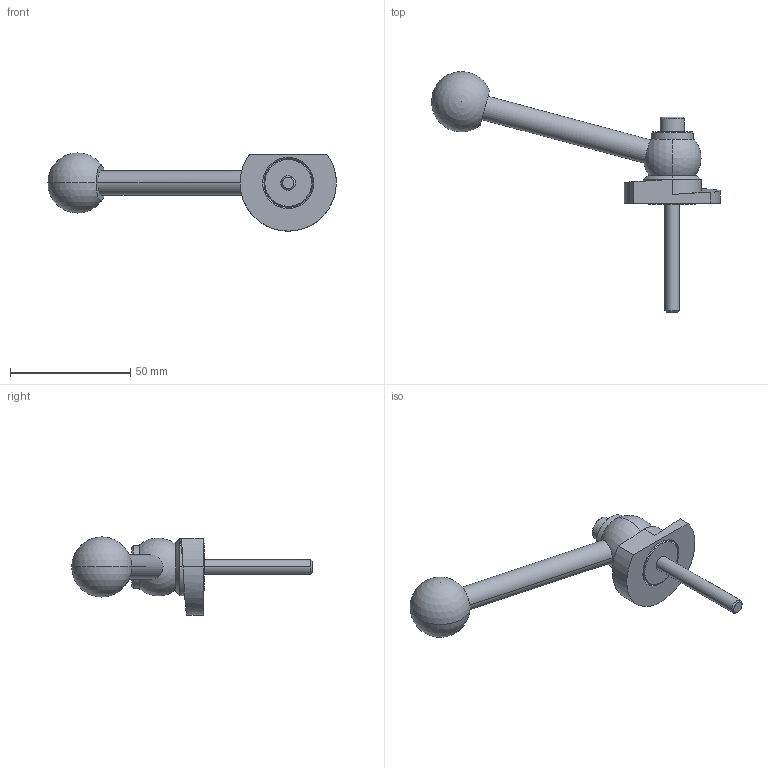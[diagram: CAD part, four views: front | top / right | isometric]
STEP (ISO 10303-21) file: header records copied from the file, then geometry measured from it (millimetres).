
FILE_DESCRIPTION (( 'STEP AP214' ), '1' );
FILE_NAME ('918.1-40-KVS-R-45.step', '2024-05-15T13:00:30', ( '' ), ( '' ), 'SwSTEP 2.0', 'SolidWorks 2022', '' );
FILE_SCHEMA (( 'AUTOMOTIVE_DESIGN' ));
Length unit declared in the file: millimetre
Products named in the file (1): 918.1-40-KVS-R-45
Bounding box: 119.95 x 99.99 x 32.5 mm (x, y, z)
Volume: 31022.5 mm3; surface area: 11684.3 mm2
Topology: 1 solids, 1 shells, 64 faces, 147 edges, 93 vertices
Faces by surface type: cylinder 22, plane 20, cone 14, sphere 4, torus 2, bspline 2
Entity records: 2045 total; most frequent: CARTESIAN_POINT 590, DIRECTION 321, ORIENTED_EDGE 274, EDGE_CURVE 137, AXIS2_PLACEMENT_3D 131, VERTEX_POINT 87, EDGE_LOOP 76, CIRCLE 68
